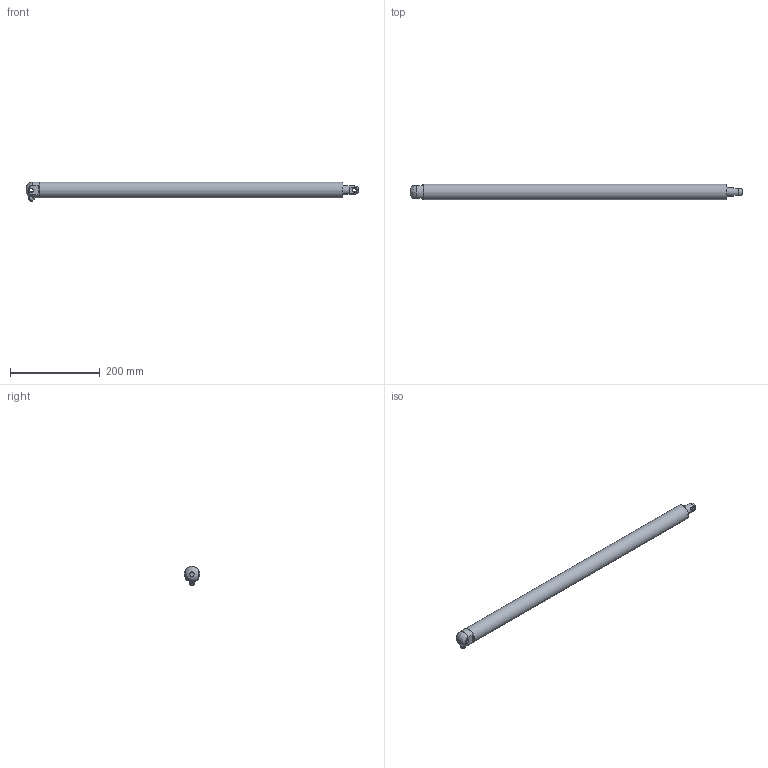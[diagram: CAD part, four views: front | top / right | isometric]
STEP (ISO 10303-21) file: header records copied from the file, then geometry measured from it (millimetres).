
FILE_DESCRIPTION( ( 'Unknown' ), '1' );
FILE_NAME( 'Z:/12¬ãµo³¡/Project/Automation/Linear Actuators/CAD/ELA35/STEP/ELA35500B.stp', 'Unknown', ( 'Unknown' ), ( 'Unknown' ), 'PSStep 10.0', 'Unknown', ' ' );
FILE_SCHEMA( ( 'AUTOMOTIVE_DESIGN { 1 0 10303 214 1 1 1 1 }' ) );
Length unit declared in the file: millimetre
Products named in the file (1): 1
Bounding box: 740 x 35 x 43.33 mm (x, y, z)
Volume: 171777.3 mm3; surface area: 149134.6 mm2
Topology: 1 solids, 2 shells, 61 faces, 149 edges, 97 vertices
Faces by surface type: plane 30, cylinder 21, cone 7, bspline 2, torus 1
Full cylindrical faces by diameter (mm): 8.1 x2, 10.8 x2, 19 x1, 31 x1, 35 x2
Entity records: 2428 total; most frequent: CARTESIAN_POINT 557, DIRECTION 296, ORIENTED_EDGE 250, EDGE_CURVE 125, AXIS2_PLACEMENT_3D 118, VERTEX_POINT 91, EDGE_LOOP 88, FACE_OUTER_BOUND 72
